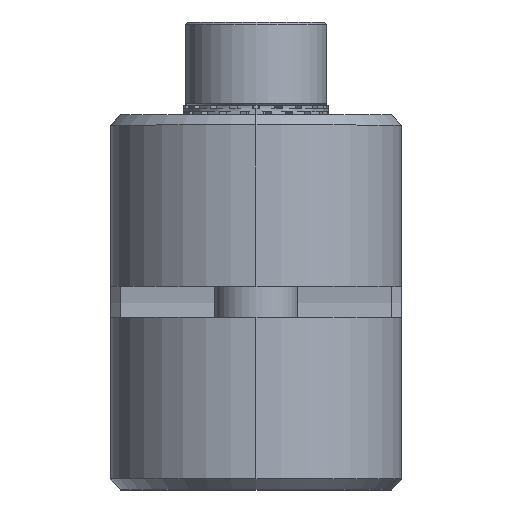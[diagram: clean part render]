
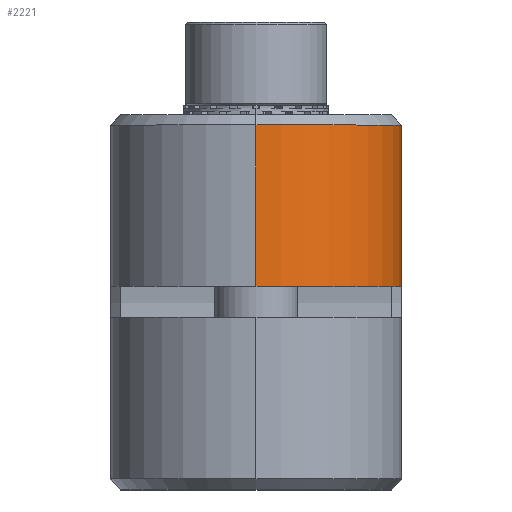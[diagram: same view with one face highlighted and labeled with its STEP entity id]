
A CAD part, top view. The second image highlights one B-rep face of the part: STEP entity #2221.
In plain terms, the highlighted cylindrical face has radius 7 mm (diameter 14 mm), a partial arc.
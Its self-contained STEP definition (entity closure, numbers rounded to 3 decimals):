
#83 = AXIS2_PLACEMENT_3D ( 'NONE', #8835, #7909, #1663 ) ;
#492 = DIRECTION ( 'NONE',  ( 1., 0., 0. ) ) ;
#622 = CYLINDRICAL_SURFACE ( 'NONE', #7963, 7. ) ;
#648 = CIRCLE ( 'NONE', #2117, 7. ) ;
#997 = DIRECTION ( 'NONE',  ( 0., 0., -1. ) ) ;
#1151 = VERTEX_POINT ( 'NONE', #8657 ) ;
#1167 = LINE ( 'NONE', #9099, #9524 ) ;
#1325 = DIRECTION ( 'NONE',  ( 0., 0., -1. ) ) ;
#1663 = DIRECTION ( 'NONE',  ( 1., 0., 0. ) ) ;
#2117 = AXIS2_PLACEMENT_3D ( 'NONE', #4874, #8409, #492 ) ;
#2138 = CARTESIAN_POINT ( 'NONE',  ( 0., -7., 18. ) ) ;
#2221 = ADVANCED_FACE ( 'NONE', ( #9415 ), #622, .T. ) ;
#2442 = CARTESIAN_POINT ( 'NONE',  ( 0., -7., 9.75 ) ) ;
#3199 = VERTEX_POINT ( 'NONE', #2442 ) ;
#3591 = CIRCLE ( 'NONE', #83, 7. ) ;
#4203 = ORIENTED_EDGE ( 'NONE', *, *, #4833, .T. ) ;
#4259 = CARTESIAN_POINT ( 'NONE',  ( 0., 0., 18. ) ) ;
#4833 = EDGE_CURVE ( 'NONE', #4866, #3199, #3591, .T. ) ;
#4866 = VERTEX_POINT ( 'NONE', #6166 ) ;
#4874 = CARTESIAN_POINT ( 'NONE',  ( 0., 0., 17.5 ) ) ;
#5075 = DIRECTION ( 'NONE',  ( 0., 0., -1. ) ) ;
#6166 = CARTESIAN_POINT ( 'NONE',  ( -7., 0., 9.75 ) ) ;
#6396 = VECTOR ( 'NONE', #1325, 1000. ) ;
#6608 = EDGE_LOOP ( 'NONE', ( #7013, #9398, #4203, #8776 ) ) ;
#6814 = CARTESIAN_POINT ( 'NONE',  ( 0., -7., 17.5 ) ) ;
#7013 = ORIENTED_EDGE ( 'NONE', *, *, #10105, .T. ) ;
#7909 = DIRECTION ( 'NONE',  ( 0., 0., 1. ) ) ;
#7963 = AXIS2_PLACEMENT_3D ( 'NONE', #4259, #5075, #9358 ) ;
#8409 = DIRECTION ( 'NONE',  ( 0., 0., -1. ) ) ;
#8657 = CARTESIAN_POINT ( 'NONE',  ( -7., 0., 17.5 ) ) ;
#8776 = ORIENTED_EDGE ( 'NONE', *, *, #9369, .F. ) ;
#8835 = CARTESIAN_POINT ( 'NONE',  ( 0., 0., 9.75 ) ) ;
#8959 = EDGE_CURVE ( 'NONE', #1151, #4866, #1167, .T. ) ;
#9099 = CARTESIAN_POINT ( 'NONE',  ( -7., 0., 18. ) ) ;
#9358 = DIRECTION ( 'NONE',  ( -1., 0., 0. ) ) ;
#9369 = EDGE_CURVE ( 'NONE', #9861, #3199, #10051, .T. ) ;
#9398 = ORIENTED_EDGE ( 'NONE', *, *, #8959, .T. ) ;
#9415 = FACE_OUTER_BOUND ( 'NONE', #6608, .T. ) ;
#9524 = VECTOR ( 'NONE', #997, 1000. ) ;
#9861 = VERTEX_POINT ( 'NONE', #6814 ) ;
#10051 = LINE ( 'NONE', #2138, #6396 ) ;
#10105 = EDGE_CURVE ( 'NONE', #9861, #1151, #648, .T. ) ;
